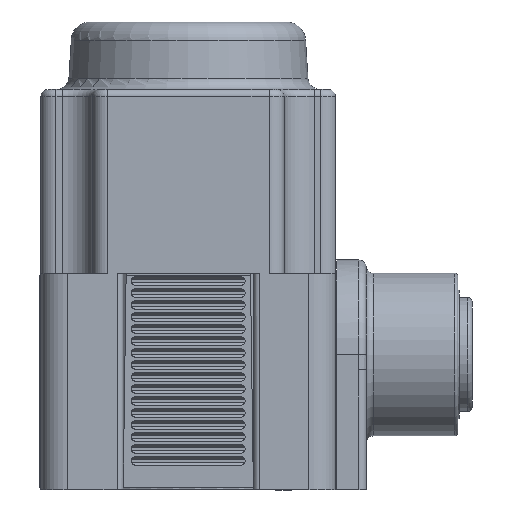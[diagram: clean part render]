
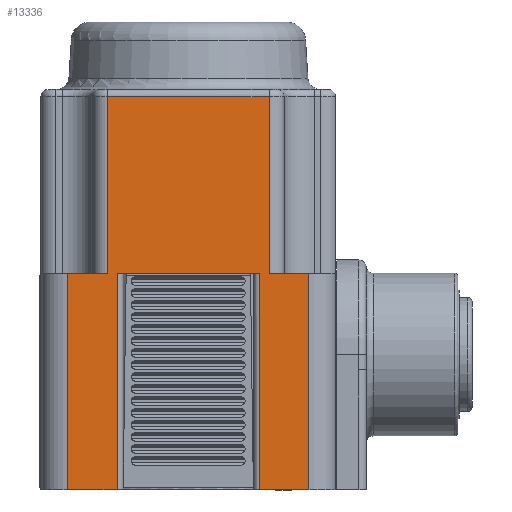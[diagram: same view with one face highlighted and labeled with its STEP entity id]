
A CAD part, left-side view. The second image highlights one B-rep face of the part: STEP entity #13336.
In plain terms, the highlighted planar face has unit normal (-1, 0, 0).
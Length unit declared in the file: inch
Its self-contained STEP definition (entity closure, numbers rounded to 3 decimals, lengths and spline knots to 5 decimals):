
#923=PLANE('',#14745);
#1554=FACE_OUTER_BOUND('',#2345,.T.);
#2345=EDGE_LOOP('',(#10681,#10682,#10683,#10684,#10685,#10686,#10687,#10688,
#10689,#10690,#10691,#10692));
#3521=LINE('',#21077,#4441);
#3534=LINE('',#21147,#4454);
#3657=LINE('',#22735,#4577);
#3675=LINE('',#22795,#4595);
#3676=LINE('',#22799,#4596);
#3679=LINE('',#22818,#4599);
#3693=LINE('',#22888,#4613);
#3694=LINE('',#22892,#4614);
#3695=LINE('',#22893,#4615);
#3696=LINE('',#22895,#4616);
#3697=LINE('',#22897,#4617);
#3698=LINE('',#22898,#4618);
#4441=VECTOR('',#17347,0.3937);
#4454=VECTOR('',#17430,0.3937);
#4577=VECTOR('',#17751,0.3937);
#4595=VECTOR('',#17823,0.3937);
#4596=VECTOR('',#17828,0.3937);
#4599=VECTOR('',#17849,0.3937);
#4613=VECTOR('',#17941,0.3937);
#4614=VECTOR('',#17946,0.3937);
#4615=VECTOR('',#17947,0.3937);
#4616=VECTOR('',#17948,0.3937);
#4617=VECTOR('',#17949,0.3937);
#4618=VECTOR('',#17950,0.3937);
#5624=VERTEX_POINT('',#21069);
#5626=VERTEX_POINT('',#21075);
#5648=VERTEX_POINT('',#21145);
#5784=VERTEX_POINT('',#22732);
#5785=VERTEX_POINT('',#22734);
#5800=VERTEX_POINT('',#22794);
#5801=VERTEX_POINT('',#22798);
#5808=VERTEX_POINT('',#22816);
#5825=VERTEX_POINT('',#22887);
#5826=VERTEX_POINT('',#22891);
#5827=VERTEX_POINT('',#22894);
#5828=VERTEX_POINT('',#22896);
#7205=EDGE_CURVE('',#5626,#5624,#3521,.T.);
#7241=EDGE_CURVE('',#5648,#5626,#3534,.T.);
#7450=EDGE_CURVE('',#5785,#5784,#3657,.T.);
#7480=EDGE_CURVE('',#5800,#5624,#3675,.T.);
#7482=EDGE_CURVE('',#5801,#5800,#3676,.T.);
#7492=EDGE_CURVE('',#5648,#5808,#3679,.T.);
#7527=EDGE_CURVE('',#5825,#5785,#3693,.T.);
#7529=EDGE_CURVE('',#5826,#5808,#3694,.T.);
#7530=EDGE_CURVE('',#5825,#5826,#3695,.T.);
#7531=EDGE_CURVE('',#5827,#5784,#3696,.T.);
#7532=EDGE_CURVE('',#5827,#5828,#3697,.T.);
#7533=EDGE_CURVE('',#5828,#5801,#3698,.T.);
#10681=ORIENTED_EDGE('',*,*,#7205,.F.);
#10682=ORIENTED_EDGE('',*,*,#7241,.F.);
#10683=ORIENTED_EDGE('',*,*,#7492,.T.);
#10684=ORIENTED_EDGE('',*,*,#7529,.F.);
#10685=ORIENTED_EDGE('',*,*,#7530,.F.);
#10686=ORIENTED_EDGE('',*,*,#7527,.T.);
#10687=ORIENTED_EDGE('',*,*,#7450,.T.);
#10688=ORIENTED_EDGE('',*,*,#7531,.F.);
#10689=ORIENTED_EDGE('',*,*,#7532,.T.);
#10690=ORIENTED_EDGE('',*,*,#7533,.T.);
#10691=ORIENTED_EDGE('',*,*,#7482,.T.);
#10692=ORIENTED_EDGE('',*,*,#7480,.T.);
#13336=ADVANCED_FACE('',(#1554),#923,.T.);
#14745=AXIS2_PLACEMENT_3D('',#22890,#17944,#17945);
#17347=DIRECTION('',(0.,-1.,0.));
#17430=DIRECTION('',(0.,0.,1.));
#17751=DIRECTION('',(0.,-1.,0.));
#17823=DIRECTION('',(0.,0.,1.));
#17828=DIRECTION('',(0.,1.,0.));
#17849=DIRECTION('',(0.,1.,0.));
#17941=DIRECTION('',(0.,0.,1.));
#17944=DIRECTION('center_axis',(-1.,0.,0.));
#17945=DIRECTION('ref_axis',(0.,0.,1.));
#17946=DIRECTION('',(0.,0.,1.));
#17947=DIRECTION('',(0.,1.,0.));
#17948=DIRECTION('',(0.,0.,1.));
#17949=DIRECTION('',(0.,-1.,0.));
#17950=DIRECTION('',(0.,0.,1.));
#21069=CARTESIAN_POINT('',(-0.15693,-0.60554,0.01121));
#21075=CARTESIAN_POINT('',(-0.15693,0.06246,0.01121));
#21077=CARTESIAN_POINT('',(-0.15693,0.06246,0.01121));
#21145=CARTESIAN_POINT('',(-0.15693,0.06246,-0.72079));
#21147=CARTESIAN_POINT('',(-0.15693,0.06246,-0.72079));
#22732=CARTESIAN_POINT('',(-0.15693,-0.56554,-0.72079));
#22734=CARTESIAN_POINT('',(-0.15693,0.02246,-0.72079));
#22735=CARTESIAN_POINT('',(-0.15693,0.02246,-0.72079));
#22794=CARTESIAN_POINT('',(-0.15693,-0.60554,-0.72079));
#22795=CARTESIAN_POINT('',(-0.15693,-0.60554,-0.72079));
#22798=CARTESIAN_POINT('',(-0.15693,-0.77054,-0.72079));
#22799=CARTESIAN_POINT('',(-0.15693,-0.77054,-0.72079));
#22816=CARTESIAN_POINT('',(-0.15693,0.22746,-0.72079));
#22818=CARTESIAN_POINT('',(-0.15693,0.06246,-0.72079));
#22887=CARTESIAN_POINT('',(-0.15693,0.02246,-1.61479));
#22888=CARTESIAN_POINT('',(-0.15693,0.02246,-1.61479));
#22890=CARTESIAN_POINT('Origin',(-0.15693,-0.77093,
-0.80179));
#22891=CARTESIAN_POINT('',(-0.15693,0.22746,-1.61479));
#22892=CARTESIAN_POINT('',(-0.15693,0.22746,-1.61479));
#22893=CARTESIAN_POINT('',(-0.15693,0.02246,-1.61479));
#22894=CARTESIAN_POINT('',(-0.15693,-0.56554,-1.61479));
#22895=CARTESIAN_POINT('',(-0.15693,-0.56554,-1.61479));
#22896=CARTESIAN_POINT('',(-0.15693,-0.77054,-1.61479));
#22897=CARTESIAN_POINT('',(-0.15693,-0.56554,-1.61479));
#22898=CARTESIAN_POINT('',(-0.15693,-0.77054,-1.61479));
